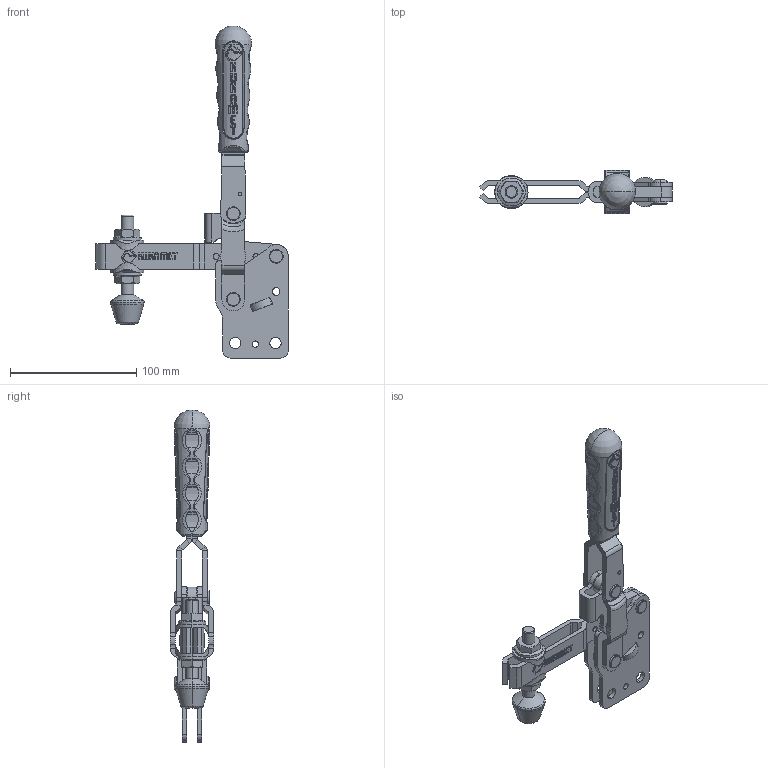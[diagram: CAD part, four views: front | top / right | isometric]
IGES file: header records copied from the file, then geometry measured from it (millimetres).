
Start section: 3D InterOp IGES (v. 2020 1.0.1), Spatial Corp. Copyright (c) 1999-2017.
Global section: file name: 212-4.igs; native system: Spatial Corp.; preprocessor: 3D InterOp ACIS/IGES; author: TraceParts; organization: TraceParts S.A.; date: 20230912.105427; units: millimetre
Bounding box: 152.5 x 34.2 x 263.17 mm (x, y, z)
Surface area: 73595.6 mm2 (no closed solid volume)
Topology: 0 solids, 0 shells, 2045 faces, 16304 edges, 16184 vertices
Faces by surface type: revolution 946, extrusion 565, bspline 534
